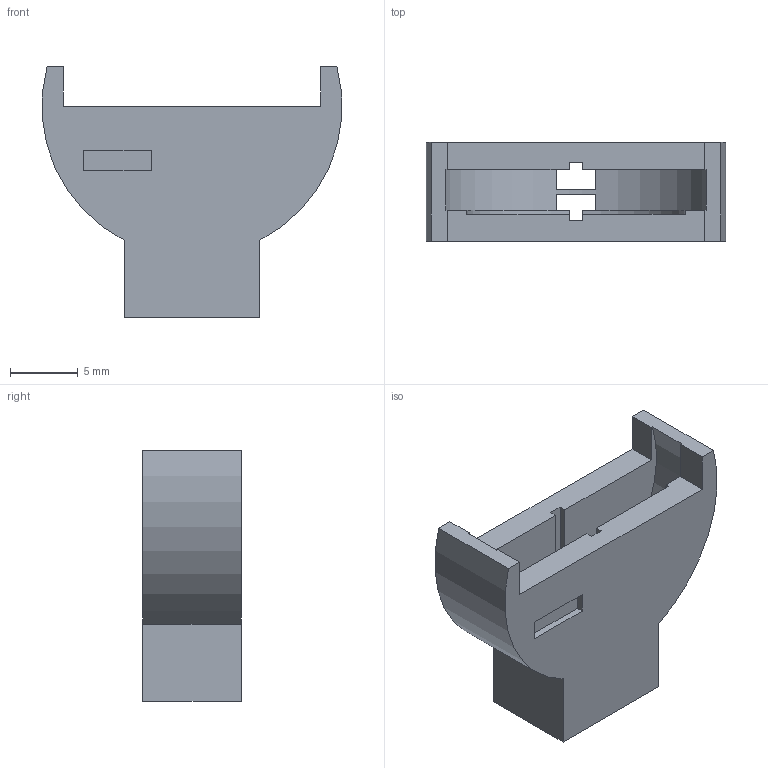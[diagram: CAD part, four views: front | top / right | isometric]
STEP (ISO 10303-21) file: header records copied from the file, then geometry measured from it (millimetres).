
FILE_DESCRIPTION(/* description */ (''),/* implementation_level */ '2;1');
FILE_NAME(/* name */ 'CR2032 Holder Basic.step',/* time_stamp */ '2024-02-13T16:30:59Z',/* author */ (''),/* organization */ (''),/* preprocessor_version */ 'ST-DEVELOPER v20',/* originating_system */ 'Autodesk Translation Framework v12.20.1.177',/* authorisation */ '');
FILE_SCHEMA (('AUTOMOTIVE_DESIGN { 1 0 10303 214 3 1 1 }'));
Length unit declared in the file: millimetre
Products named in the file (1): CR2032 Holder
Bounding box: 22.09 x 7.3 x 18.5 mm (x, y, z)
Volume: 1197.1 mm3; surface area: 1588.3 mm2
Topology: 1 solids, 1 shells, 58 faces, 164 edges, 108 vertices
Faces by surface type: plane 51, cylinder 7
Entity records: 1899 total; most frequent: CARTESIAN_POINT 331, ORIENTED_EDGE 328, DIRECTION 304, EDGE_CURVE 164, LINE 142, VECTOR 142, VERTEX_POINT 108, AXIS2_PLACEMENT_3D 81
